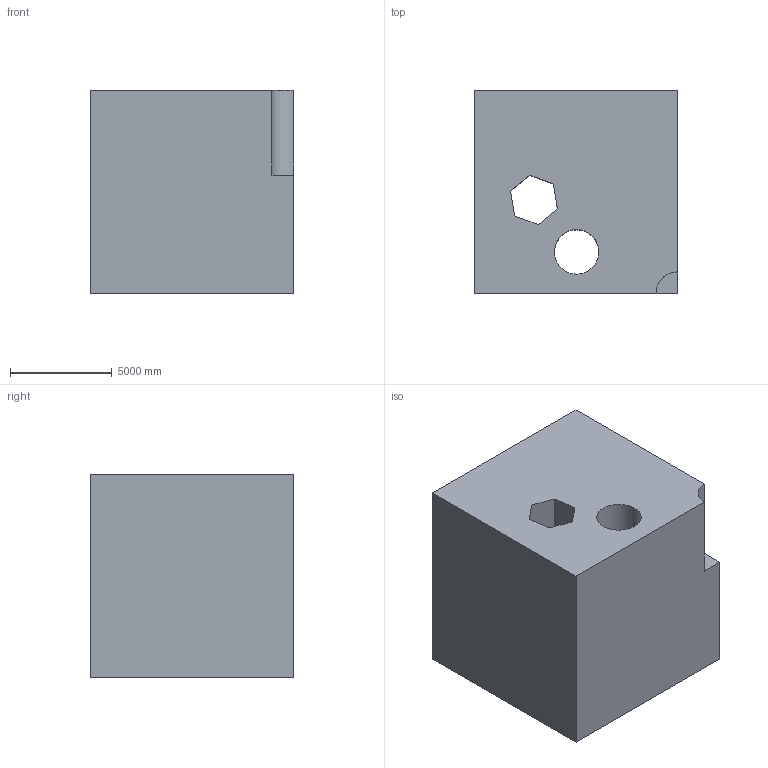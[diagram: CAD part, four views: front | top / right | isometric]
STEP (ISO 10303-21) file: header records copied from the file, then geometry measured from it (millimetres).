
FILE_DESCRIPTION (( 'STEP AP203' ), '1' );
FILE_NAME ('499.STEP', '2022-07-29T11:31:46', ( 'user' ), ( '' ), 'SwSTEP 2.0', 'SolidWorks 2021', '' );
FILE_SCHEMA (( 'CONFIG_CONTROL_DESIGN' ));
Length unit declared in the file: centimetre
Products named in the file (1): 499
Bounding box: 10000 x 10000 x 10000 mm (x, y, z)
Volume: 886984085411.2 mm3; surface area: 778462661 mm2
Topology: 1 solids, 1 shells, 24 faces, 63 edges, 42 vertices
Faces by surface type: plane 21, cylinder 3
Entity records: 818 total; most frequent: CARTESIAN_POINT 130, ORIENTED_EDGE 126, DIRECTION 119, EDGE_CURVE 63, LINE 57, VECTOR 57, VERTEX_POINT 42, AXIS2_PLACEMENT_3D 31
